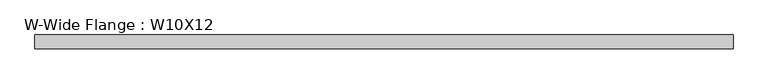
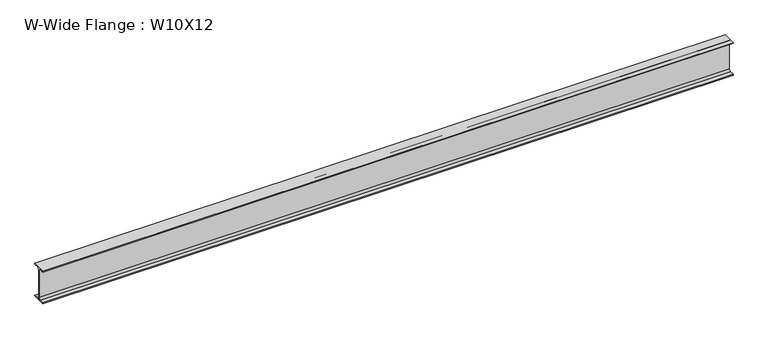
"""IFC4 building model written with IfcOpenShell, lengths in millimetres: beam geometry, W-Wide Flange : W10X12."""

from ifc_helpers import new_model, si_unit, point, frame, frame_2d, origin, place, context, project, spatial, polyline, circle_curve, trimmed, segment, composite_curve, outline, extrude, source, transform, mapped, element, save


def w_wide_flange_w10x12_2b4455fd(model_context):
    return source(origin(), model_context, "Body", "SweptSolid", [
        extrude(outline(composite_curve([segment(polyline([(50.292, -120.015), (50.292, -125.349), (-50.292, -125.349), (-50.292, -120.015), (-16.129, -120.015)]), True, "CONTINUOUS"), segment(trimmed(circle_curve(frame_2d((-16.129, -106.299)), 13.716), [point((-16.129, -120.015))], [point((-2.413, -106.299))], True, "CARTESIAN"), True, "CONTINUOUS"), segment(polyline([(-2.413, -106.299), (-2.413, 106.299)]), True, "CONTINUOUS"), segment(trimmed(circle_curve(frame_2d((-16.129, 106.299)), 13.716), [point((-2.413, 106.299))], [point((-16.129, 120.015))], True, "CARTESIAN"), True, "CONTINUOUS"), segment(polyline([(-16.129, 120.015), (-50.292, 120.015), (-50.292, 125.349), (50.292, 125.349), (50.292, 120.015), (16.129, 120.015)]), True, "CONTINUOUS"), segment(trimmed(circle_curve(frame_2d((16.129, 106.299)), 13.716), [point((16.129, 120.015))], [point((2.413, 106.299))], True, "CARTESIAN"), True, "CONTINUOUS"), segment(polyline([(2.413, 106.299), (2.413, -106.299)]), True, "CONTINUOUS"), segment(trimmed(circle_curve(frame_2d((16.129, -106.299)), 13.716), [point((2.413, -106.299))], [point((16.129, -120.015))], True, "CARTESIAN"), True, "CONTINUOUS"), segment(polyline([(16.129, -120.015), (50.292, -120.015)]), True, "CONTINUOUS")], self_intersect=False)), frame((-2535.2375, 0.0, 0.0), z_axis=(1.0, 0.0, 0.0), x_axis=(0.0, 1.0, 0.0)), (0.0, 0.0, 1.0), 5070.475),
    ])


if __name__ == "__main__":
    model = new_model("IFC4")
    model_context = context("Model", 3, world=origin())
    ifc_project = project(units=[si_unit("LENGTHUNIT", "METRE", prefix="MILLI")], contexts=[model_context])
    site = spatial("IfcSite", under=ifc_project)
    building = spatial("IfcBuilding", under=site)
    placement = place(None, origin())
    w_wide_flange_w10x12_shape = w_wide_flange_w10x12_2b4455fd(model_context)
    element("IfcBeam", 1, ObjectType="W-Wide Flange : W10X12", at=placement, inside=building, context=model_context, shape_type="MappedRepresentation", body=[
        mapped(w_wide_flange_w10x12_shape, transform((0.0, 0.0, 0.0), x_axis=(1.0, 0.0, 0.0), y_axis=(0.0, 1.0, 0.0), z_axis=(0.0, 0.0, 1.0))),
    ])
    save(model, "model.ifc")
